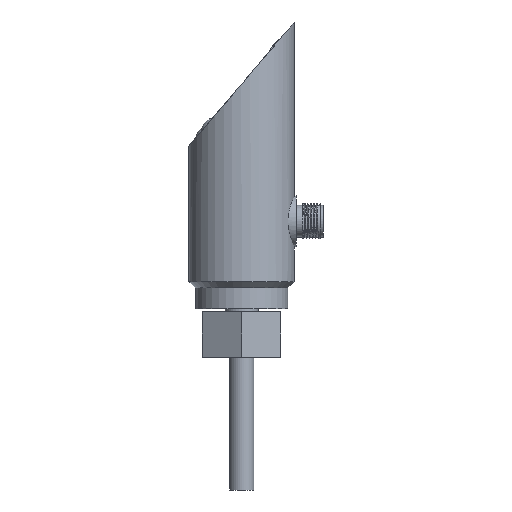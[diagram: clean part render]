
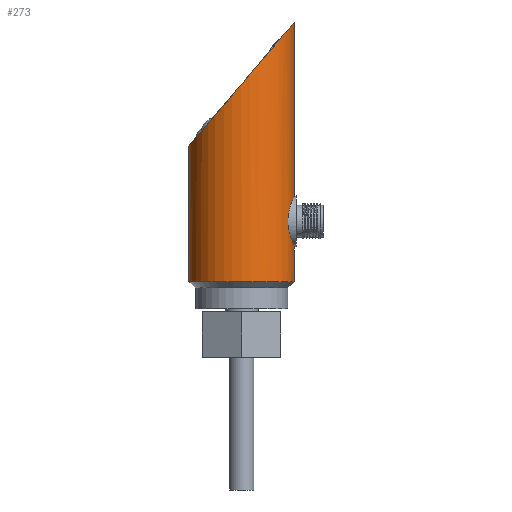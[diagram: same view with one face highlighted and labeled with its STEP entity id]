
A CAD part, front view. The second image highlights one B-rep face of the part: STEP entity #273.
In plain terms, the highlighted cylindrical face has radius 17.5 mm (diameter 35 mm), a full revolution.
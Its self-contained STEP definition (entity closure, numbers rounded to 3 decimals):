
#121=CYLINDRICAL_SURFACE('',#2692,17.5);
#268=ELLIPSE('',#2684,27.001,17.5);
#273=ADVANCED_FACE('',(#1058,#1059,#1060),#121,.T.);
#623=B_SPLINE_CURVE_WITH_KNOTS('',3,(#3978,#3979,#3980,#3981,#3982,#3983,
#3984,#3985,#3986,#3987,#3988,#3989,#3990,#3991,#3992,#3993,#3994,#3995),
 .UNSPECIFIED.,.T.,.F.,(2,2,2,2,2,2,2,2,2,2,2),(-0.125,0.,0.125,0.25,0.375,
0.5,0.625,0.75,0.875,1.,1.125),.UNSPECIFIED.);
#1058=FACE_BOUND('',#1129,.T.);
#1059=FACE_BOUND('',#1130,.T.);
#1060=FACE_BOUND('',#1131,.T.);
#1129=EDGE_LOOP('',(#1420));
#1130=EDGE_LOOP('',(#1421));
#1131=EDGE_LOOP('',(#1422));
#1420=ORIENTED_EDGE('',*,*,#2374,.T.);
#1421=ORIENTED_EDGE('',*,*,#2392,.F.);
#1422=ORIENTED_EDGE('',*,*,#2393,.T.);
#2123=VERTEX_POINT('',#3806);
#2140=VERTEX_POINT('',#3977);
#2141=VERTEX_POINT('',#3996);
#2374=EDGE_CURVE('',#2123,#2123,#268,.T.);
#2392=EDGE_CURVE('',#2140,#2140,#2651,.T.);
#2393=EDGE_CURVE('',#2141,#2141,#623,.T.);
#2651=CIRCLE('',#2691,17.5);
#2684=AXIS2_PLACEMENT_3D('',#3805,#2867,#2868);
#2691=AXIS2_PLACEMENT_3D('',#3976,#2892,#2893);
#2692=AXIS2_PLACEMENT_3D('',#3997,#2894,#2895);
#2867=DIRECTION('',(0.762,0.,-0.648));
#2868=DIRECTION('',(0.648,0.,0.762));
#2892=DIRECTION('',(0.,0.,-1.));
#2893=DIRECTION('',(-1.,0.,0.));
#2894=DIRECTION('',(0.,0.,1.));
#2895=DIRECTION('',(1.,0.,0.));
#3805=CARTESIAN_POINT('',(0.,0.,65.438));
#3806=CARTESIAN_POINT('',(17.5,0.,86.));
#3976=CARTESIAN_POINT('',(0.,0.,0.));
#3977=CARTESIAN_POINT('',(-17.5,0.,0.));
#3978=CARTESIAN_POINT('',(17.5,2.284,11.5));
#3979=CARTESIAN_POINT('',(17.5,-2.284,11.5));
#3980=CARTESIAN_POINT('',(16.998,-4.472,12.45));
#3981=CARTESIAN_POINT('',(15.871,-7.554,15.535));
#3982=CARTESIAN_POINT('',(15.3,-8.495,17.724));
#3983=CARTESIAN_POINT('',(15.294,-8.505,22.24));
#3984=CARTESIAN_POINT('',(15.867,-7.562,24.454));
#3985=CARTESIAN_POINT('',(16.996,-4.481,27.546));
#3986=CARTESIAN_POINT('',(17.497,-2.273,28.494));
#3987=CARTESIAN_POINT('',(17.503,2.231,28.506));
#3988=CARTESIAN_POINT('',(17.003,4.457,27.562));
#3989=CARTESIAN_POINT('',(15.87,7.558,24.465));
#3990=CARTESIAN_POINT('',(15.3,8.495,22.267));
#3991=CARTESIAN_POINT('',(15.294,8.505,17.77));
#3992=CARTESIAN_POINT('',(15.863,7.574,15.558));
#3993=CARTESIAN_POINT('',(17.002,4.464,12.439));
#3994=CARTESIAN_POINT('',(17.5,2.284,11.5));
#3995=CARTESIAN_POINT('',(17.5,-2.284,11.5));
#3996=CARTESIAN_POINT('',(17.5,0.,11.5));
#3997=CARTESIAN_POINT('',(0.,0.,0.));
